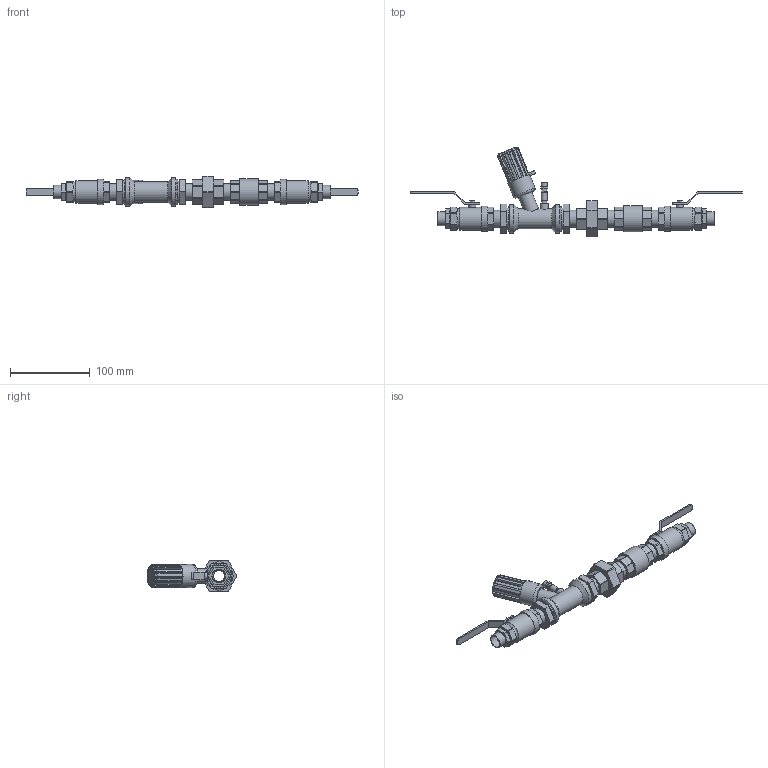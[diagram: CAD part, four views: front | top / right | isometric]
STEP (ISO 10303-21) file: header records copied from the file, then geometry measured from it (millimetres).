
FILE_DESCRIPTION(/* description */ ('VIC DOMESTIC WATER KIT FOR HYDRONIC BALANCING WITH PT PORT SERIES 7WT (SWT)','CAx-IF Rec.Pracs.---Representation and Presentation of Product Manufacturing Information (PMI)---4.0---2014-10-13'),/* implementation_level */ '2;1');
FILE_NAME(/* name */ 'C:\Users\kkamble\AppData\Roaming\Autodesk\ApplicationPlugins\Victaulic.Temp\A577\Victaulic_Domestic Water Kit for Hydronic Balancing With PT Port_Series 7WT (CPF)_SWT_0.5 (15).stp',/* time_stamp */ '2021-08-10T11:12:55+06:00',/* author */ ('kkamble'),/* organization */ ('Victaulic'),/* preprocessor_version */ 'ST-DEVELOPER v17.2',/* originating_system */ 'Autodesk Inventor 2019',/* authorisation */ '');
FILE_SCHEMA (('AP242_MANAGED_MODEL_BASED_3D_ENGINEERING_MIM_LF { 1 0 10303 442 1 1 4 }'));
Length unit declared in the file: inch
Products named in the file (7): 7WT_SWT-0.5; Adapter_Sweat_604-0.5; 722L_Swt-0.5; Nipple_BR_386-0.5 (2); 7TZ-0.5; Union_BR_386-0.5; Check_Valve_4133-0.5
Assembly tree (11 placements, depth 2):
  7WT_SWT-0.5
    Adapter_Sweat_604-0.5  x2
    722L_Swt-0.5  x2
    Nipple_BR_386-0.5 (2)  x4
    7TZ-0.5
    Union_BR_386-0.5
    Check_Valve_4133-0.5
Bounding box: 416.05 x 112.59 x 39.62 mm (x, y, z)
Volume: 182398.5 mm3; surface area: 93608 mm2
Topology: 12 solids, 12 shells, 448 faces, 1186 edges, 802 vertices
Faces by surface type: plane 310, cylinder 116, torus 18, cone 4
Full cylindrical faces by diameter (mm): 3.81 x2, 5.08 x1, 6.35 x3, 7.62 x2, 8.763 x2, 10.16 x1, 13.868 x2, 15.799 x6, 15.875 x2, 15.9 x4, 17.297 x2, 17.78 x1, 21.336 x17, 25.4 x1, 27.432 x2, 28.567 x2, 29.21 x1, 31.496 x2, 31.75 x2, 33.02 x1, 35.56 x2
Entity records: 11920 total; most frequent: CARTESIAN_POINT 2459, DIRECTION 1856, ORIENTED_EDGE 1832, EDGE_CURVE 916, AXIS2_PLACEMENT_3D 655, VERTEX_POINT 616, LINE 546, VECTOR 546
